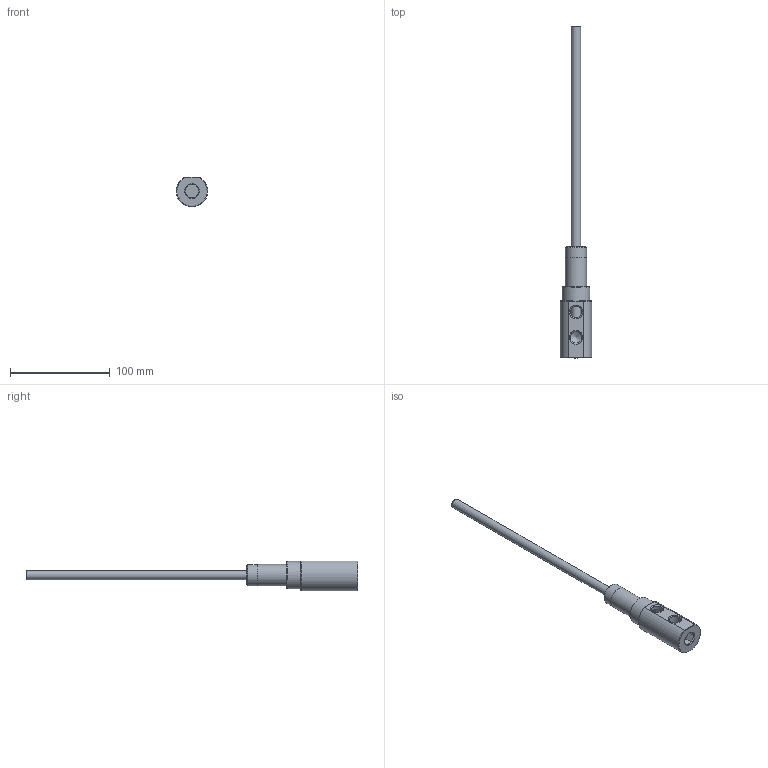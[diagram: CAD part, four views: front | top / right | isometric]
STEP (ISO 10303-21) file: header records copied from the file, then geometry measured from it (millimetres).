
FILE_DESCRIPTION(/* description */ (''),/* implementation_level */ '2;1');
FILE_NAME(/* name */ 'C:/Users/drich/Desktop/E121N-4 v1.step',/* time_stamp */ '2020-01-15T19:30:24-06:00',/* author */ (''),/* organization */ (''),/* preprocessor_version */ 'ST-DEVELOPER v18',/* originating_system */ 'Autodesk Translation Framework v8.12.0.6',/* authorisation */ '');
FILE_SCHEMA (('AUTOMOTIVE_DESIGN { 1 0 10303 214 3 1 1 }'));
Length unit declared in the file: inch
Products named in the file (4): E121N-4; E121h-4; SSPN12-2; HF375T-12
Assembly tree (3 placements, depth 2):
  E121N-4
    E121h-4
    SSPN12-2
    HF375T-12
Bounding box: 31.31 x 332.28 x 29.53 mm (x, y, z)
Volume: 46939.3 mm3; surface area: 35208.4 mm2
Topology: 3 solids, 3 shells, 61 faces, 160 edges, 110 vertices
Faces by surface type: plane 22, cone 18, cylinder 17, torus 4
Full cylindrical faces by diameter (mm): 8.636 x1, 9.271 x1, 9.881 x1, 10.978 x1, 11.151 x1, 11.668 x2, 14.884 x1, 15.799 x1, 18.901 x1, 21.285 x2, 21.336 x1, 27.432 x1
Entity records: 2221 total; most frequent: CARTESIAN_POINT 547, DIRECTION 348, ORIENTED_EDGE 316, EDGE_CURVE 158, AXIS2_PLACEMENT_3D 146, VERTEX_POINT 110, CIRCLE 76, EDGE_LOOP 76
